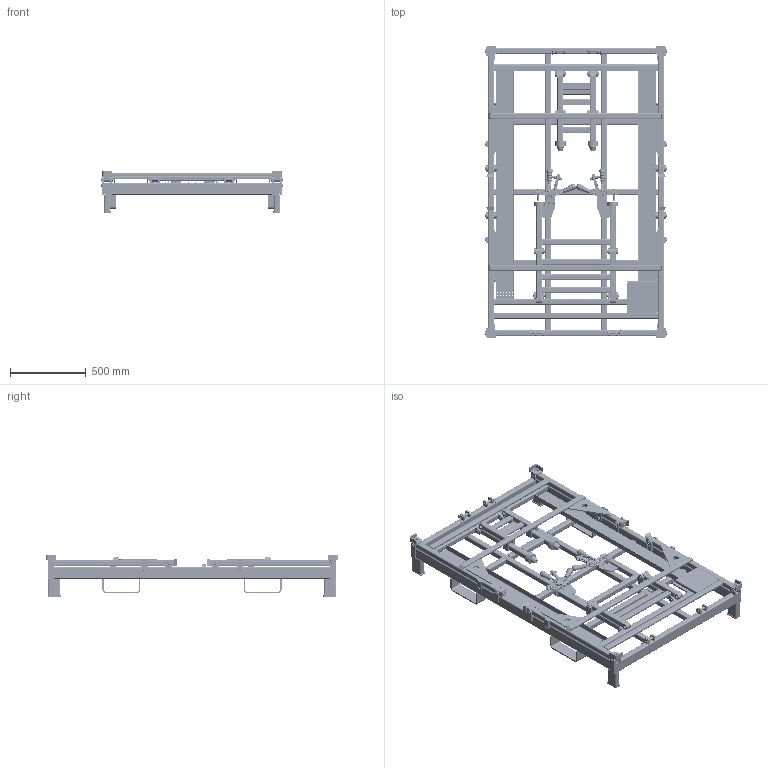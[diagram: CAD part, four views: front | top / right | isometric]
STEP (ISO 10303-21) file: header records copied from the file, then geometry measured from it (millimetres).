
FILE_DESCRIPTION( ( 'Unknown' ), '1' );
FILE_NAME( 'P:/Pripravky/FENWICK-LINDE/15296 - PALETA - KOVARIK/SKLADACI-TRACTEUR/15296_F/JT/CLOSED/15296_F-CLOSED.stp', 'Unknown', ( 'Unknown' ), ( 'Unknown' ), 'PSStep 16.0.42', 'Unknown', ' ' );
FILE_SCHEMA( ( 'AUTOMOTIVE_DESIGN { 1 0 10303 214 1 1 1 1 }' ) );
Length unit declared in the file: millimetre
Products named in the file (79): 214.1; Part17; 15296_06_01; 15296_03_03; 15296_01_10_00_zrc; 15296_01_10_zrc; 15296_01_12; 15296_05_01; 214.1-opened; 15296_01_11_00; 15296_01_11; 15296_01_14; 15296_01_13; 214.1-CLOSED; Sroub M8x25-8.8 ISO 4762; Podlozka 8-200 HV ISO 7089; Matice M8-6 ISO 4032; DOSED PALETY; DOSED PALETY 50x50x4; DOSED PALETY-CEP; 15296_01_10_00; 15296_01_10; 15296_06_00; 15296_06_02; 15296_04_00; 15296_04_01; 15296_04_02; 15296_04_03; 15296_04_04; 15296_04_05; 15296_04_05-oa1; 15296_03_07; 15296_02_00; 15296_02_04; 15296_02_02; 15296_02_07; 15296_02_05; 15296_02_06; 15296_02_08; 15296_02_01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
Assembly tree (197 placements, depth 5):
  Assem1
    15296_01_00
      15296_01_04  x6
      15296_01_16_zrc
      15296_01_10  x4
      15296_01_11  x5
      15296_01_05  x2
      15296_01_01  x2
      15296_01_07  x8
      15296_01_02  x2
      15296_01_03  x2
      15296_01_13  x4
      15296_01_06  x4
      15296_01_08  x4
      15296_01_09  x4
      15296_01_10_zrc
      15296_01_11_zrc  x2
      15296_01_17  x3
      15296_01_15  x4
      15296_01_16
      15296_01_11_00
        15296_01_11
        15296_01_12
      15296_01_14  x4
        15296_01_13
        15296_01_12
      15296_01_10_00  x2
        15296_01_10
        15296_01_12
      15296_01_10_00_zrc
        15296_01_10_zrc
        15296_01_12
    15296_06_00
      15296_06_02  x2
      15296_06_01  x2
        15296_03_03
        15296_06_01
    15296_02_00  x2
      15296_01_13
      15296_02_04
      15296_02_02
      15296_02_07
      15296_02_05
      15296_02_06
      15296_02_08
      15296_02_01
      15296_02_03
      15296_02_08_zrc
      DOSED PALETY
        DOSED PALETY 50x50x4
        DOSED PALETY-CEP
      15296_01_14
        15296_01_13
        15296_01_12
    15296_05_00
      15296_05_02  x2
      15296_05_01  x2
        15296_05_01
        15296_03_03
    15296_03_00
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Bounding box: 1196 x 1930 x 272 mm (x, y, z)
Volume: 23662843.8 mm3; surface area: 11075729.9 mm2
Topology: 240 solids, 244 shells, 8222 faces, 25920 edges, 16356 vertices
Faces by surface type: plane 4479, cylinder 2015, cone 1452, torus 128, bspline 84, extrusion 64
Full cylindrical faces by diameter (mm): 1.7 x24, 3.242 x4, 4.3 x4, 4.917 x4, 5 x120, 6 x30, 6.4 x4, 6.647 x4, 7.998 x4, 8 x28, 8.04 x8, 8.4 x12, 8.5 x8, 10 x14, 10.1 x16, 10.106 x2, 10.25 x4, 11 x8, 12.5 x2, 13 x4, 15 x2, 16 x16, 17 x12, 18.5 x36, 19 x64, 20 x6, 22 x16, 40 x4, 47 x2, 47.5 x2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
Entity records: 167296 total; most frequent: CARTESIAN_POINT 39406, ORIENTED_EDGE 22596, DIRECTION 18761, EDGE_CURVE 11298, VERTEX_POINT 7242, AXIS2_PLACEMENT_3D 6421, VECTOR 5919, LINE 5891
